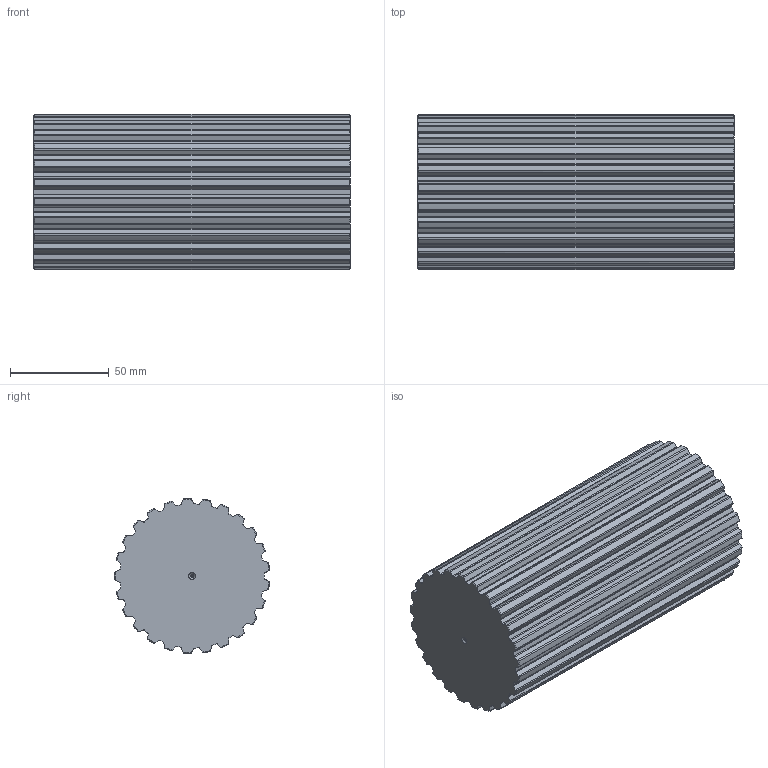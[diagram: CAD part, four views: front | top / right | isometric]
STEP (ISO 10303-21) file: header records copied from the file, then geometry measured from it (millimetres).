
FILE_DESCRIPTION(('STEP AP214'),'1');
FILE_NAME('barat_25.stp','2018-03-23T14:18:31',('TraceParts'),('TraceParts S.A.'),'Spatial InterOp 3D',' ',' ');
FILE_SCHEMA(('automotive_design'));
Length unit declared in the file: millimetre
Products named in the file (1): barat_25
Bounding box: 160 x 78.44 x 78.56 mm (x, y, z)
Volume: 726001.7 mm3; surface area: 59360.5 mm2
Topology: 1 solids, 1 shells, 266 faces, 784 edges, 518 vertices
Faces by surface type: cylinder 154, cone 60, plane 52
Entity records: 9317 total; most frequent: CARTESIAN_POINT 2465, ORIENTED_EDGE 1560, DIRECTION 1380, EDGE_CURVE 780, AXIS2_PLACEMENT_3D 533, VERTEX_POINT 518, LINE 314, VECTOR 314
